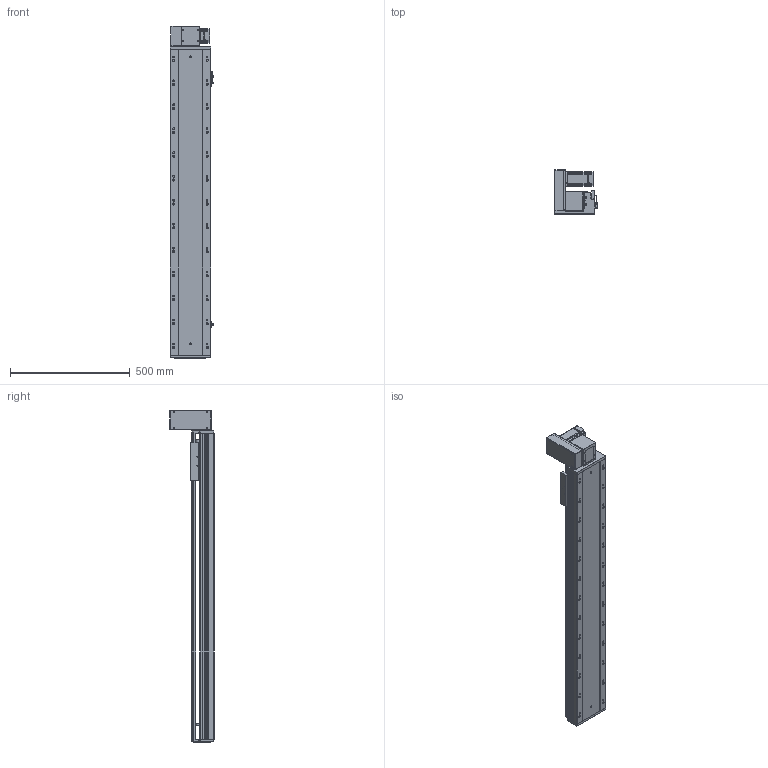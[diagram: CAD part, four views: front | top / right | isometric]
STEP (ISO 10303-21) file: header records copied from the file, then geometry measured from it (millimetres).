
FILE_DESCRIPTION (( 'STEP AP203' ), '1' );
FILE_NAME ('RY170-T-300-UL-P400W.SLDASM_1000.step', '2021-03-02T02:12:52', ( '盈信电脑' ), ( '东莞市道滘镇水果街19号' ), 'SwSTEP 2.0', 'SolidWorks 2012', '' );
FILE_SCHEMA (( 'CONFIG_CONTROL_DESIGN' ));
Length unit declared in the file: millimetre
Products named in the file (18): RY170-T-300肮祭謫倰第菁釱-DL_1000; RY170肮祭湍臏賑輸; 15; RY170-T蹟翐M4; RY170-T-300-UL-P400W.SLDASM_1000; 滅袉蝶18-10; RY170肮祭謫萇儂欶; RY170同步轮电机安装板(400W); RY120-T主同步轮轴承压盖; RY170翋肮祭謫釱; RY170-T肮祭謫裔啣; RY170-T肮祭湍揤踡輸2; RY170-T肮祭湍揤踡輸1; RY170綴裔啣; RY170外置感应片(200共用）; 覜茼ん672; RY170肮祭謫ヶ裔啣; RY170-T-300肮祭謫倰第裔啣-DL_1000
Assembly tree (20 placements, depth 2):
  RY170-T-300-UL-P400W.SLDASM_1000
    RY170-T-300肮祭謫倰第菁釱-DL_1000
    RY170肮祭湍臏賑輸
    RY170-T-300肮祭謫倰第裔啣-DL_1000
    RY170綴裔啣
    覜茼ん672  x3
    RY170外置感应片(200共用）
    RY170肮祭謫ヶ裔啣
    RY170翋肮祭謫釱
    RY170-T肮祭湍揤踡輸1
    RY170-T肮祭湍揤踡輸2
    RY170-T肮祭謫裔啣
    滅袉蝶18-10  x2
    RY120-T主同步轮轴承压盖
    RY170肮祭謫萇儂欶
    RY170同步轮电机安装板(400W)
    RY170-T蹟翐M4
    15
Bounding box: 183.7 x 184 x 1388 mm (x, y, z)
Volume: 6849428 mm3; surface area: 2327682.7 mm2
Topology: 20 solids, 20 shells, 2733 faces, 7774 edges, 4991 vertices
Faces by surface type: cylinder 1306, plane 1157, cone 240, bspline 30
Entity records: 89840 total; most frequent: CARTESIAN_POINT 21378, ORIENTED_EDGE 14184, DIRECTION 13586, EDGE_CURVE 7092, AXIS2_PLACEMENT_3D 4801, VERTEX_POINT 4659, LINE 3984, VECTOR 3984
